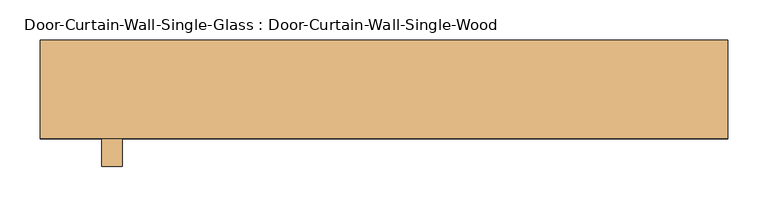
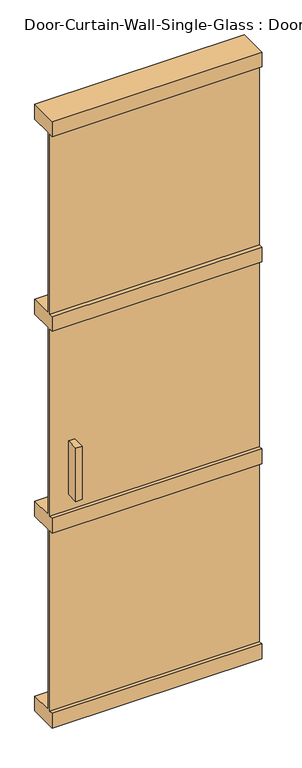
"""IFC4 building model written with IfcOpenShell, lengths in millimetres: door geometry, Door-Curtain-Wall-Single-Glass : Door-Curtain-Wall-Single-Wood."""

from ifc_helpers import new_model, si_unit, frame, origin, place, context, project, spatial, polyline, outline, extrude, source, transform, mapped, element, save


def door_curtain_wall_single_glass_door_curtain_wall_single_wood_cd16bc55(model_context):
    return source(origin(), model_context, "Body", "SweptSolid", [
        extrude(outline(polyline([(-323.85, 12.7), (-323.85, -38.1), (-349.25, -38.1), (-349.25, 12.7), (-323.85, 12.7)])), frame((0.0, 0.0, 965.2), z_axis=(0.0, 0.0, 1.0), x_axis=(1.0, 0.0, 0.0)), (0.0, 0.0, 1.0), 228.6),
        extrude(outline(polyline([(-349.25, -101.6), (-349.25, -50.8), (-323.85, -50.8), (-323.85, -101.6), (-349.25, -101.6)])), frame((0.0, 0.0, 965.2), z_axis=(0.0, 0.0, 1.0), x_axis=(1.0, 0.0, 0.0)), (0.0, 0.0, 1.0), 228.6),
        extrude(outline(polyline([(54.4331618, 2597.7570075), (54.4331618, 2534.2570075), (-38.1, 2534.2570075), (-38.1, 1762.7320075), (54.4331618, 1762.7320075), (54.4331618, 1699.2320075), (-38.1, 1699.2320075), (-38.1, 898.525), (54.4331618, 898.525), (54.4331618, 835.025), (-38.1, 835.025), (-38.1, 63.5), (54.4331618, 63.5), (54.4331618, 0.0), (-67.2601642, 0.0), (-67.2601642, 63.5), (-50.8, 63.5), (-50.8, 835.025), (-67.2601642, 835.025), (-67.2601642, 898.525), (-50.8, 898.525), (-50.8, 1699.2320075), (-67.2601642, 1699.2320075), (-67.2601642, 1762.7320075), (-50.8, 1762.7320075), (-50.8, 2534.2570075), (-67.2601642, 2534.2570075), (-67.2601642, 2597.7570075), (54.4331618, 2597.7570075)])), frame((-425.45, 0.0, 0.0), z_axis=(1.0, 0.0, 0.0), x_axis=(0.0, 1.0, 0.0)), (0.0, 0.0, 1.0), 850.9),
    ])


if __name__ == "__main__":
    model = new_model("IFC4")
    model_context = context("Model", 3, world=origin())
    ifc_project = project(units=[si_unit("LENGTHUNIT", "METRE", prefix="MILLI")], contexts=[model_context])
    site = spatial("IfcSite", under=ifc_project)
    building = spatial("IfcBuilding", under=site)
    placement = place(None, origin())
    door_curtain_wall_single_glass_door_curtain_wall_single_wood_shape = door_curtain_wall_single_glass_door_curtain_wall_single_wood_cd16bc55(model_context)
    element("IfcDoor", 1, ObjectType="Door-Curtain-Wall-Single-Glass : Door-Curtain-Wall-Single-Wood", at=placement, inside=building, context=model_context, shape_type="MappedRepresentation", body=[
        mapped(door_curtain_wall_single_glass_door_curtain_wall_single_wood_shape, transform((0.0, 0.0, 0.0), x_axis=(1.0, 0.0, 0.0), y_axis=(0.0, 1.0, 0.0), z_axis=(0.0, 0.0, 1.0))),
    ])
    save(model, "model.ifc")
